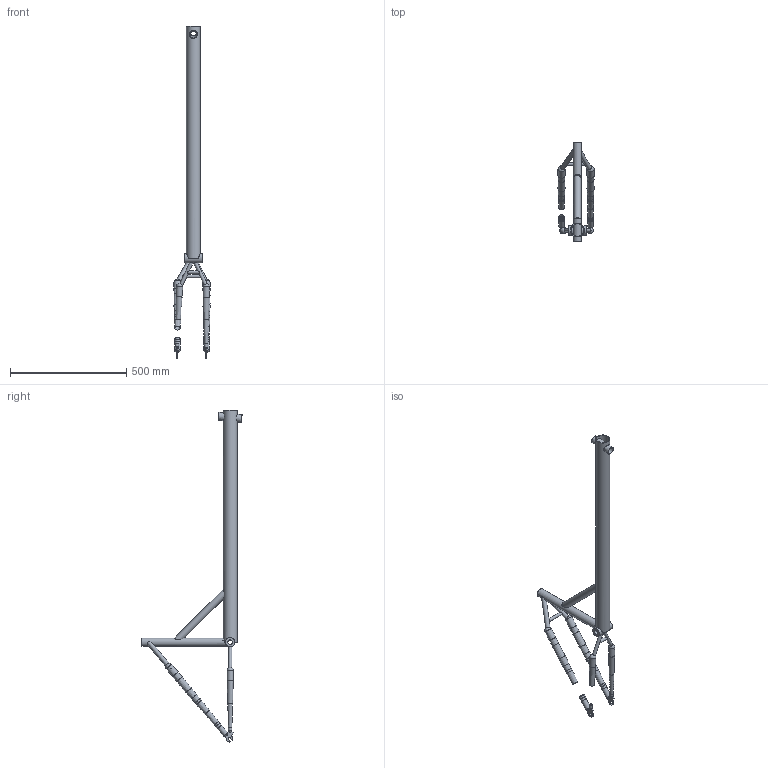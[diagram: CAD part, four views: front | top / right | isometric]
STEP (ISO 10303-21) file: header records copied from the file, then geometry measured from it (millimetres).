
FILE_DESCRIPTION(/* description */ ('Assembly1-tricycle cargo bike B'),/* implementation_level */ '2;1');
FILE_NAME(/* name */ 'C:\Users\Apardo\Documents\Proyectos\Dietrich\Proyecto 1\tricycle cargo bike B\STEP\Assembly1-tricycle cargo bike B.stp',/* time_stamp */ '2021-02-07T09:24:19-04:00',/* author */ ('Apardo'),/* organization */ ('4'),/* preprocessor_version */ 'ST-DEVELOPER v18',/* originating_system */ 'Autodesk Inventor 2020',/* authorisation */ '');
FILE_SCHEMA (('AUTOMOTIVE_DESIGN { 1 0 10303 214 3 1 1 }'));
Length unit declared in the file: millimetre
Products named in the file (5): Assembly1-tricycle cargo bike B; wl_lacb_1.3_Angle-profile-box; wl_lacb_1.1_Down-tube; wl_lacb_1.2_Head-tube; wl_lacb_1.4_Reinforcement-pipe
Assembly tree (4 placements, depth 2):
  Assembly1-tricycle cargo bike B
    wl_lacb_1.3_Angle-profile-box
    wl_lacb_1.1_Down-tube
    wl_lacb_1.2_Head-tube
    wl_lacb_1.4_Reinforcement-pipe
Bounding box: 155.62 x 431.21 x 1429.77 mm (x, y, z)
Volume: 1718604.5 mm3; surface area: 637214.9 mm2
Topology: 4 solids, 4 shells, 103 faces, 298 edges, 204 vertices
Faces by surface type: cylinder 40, plane 33, cone 22, sphere 6, bspline 2
Full cylindrical faces by diameter (mm): 12.8 x1, 13.5 x1, 14 x2, 14.6 x2, 19.4 x2, 20 x1, 23.05 x2, 24 x1, 25.4 x1, 26.7 x2, 29.7 x1, 30 x1, 30.45 x2, 33.7 x3, 36 x1, 39.9 x1, 54 x1, 60 x1
Entity records: 5549 total; most frequent: CARTESIAN_POINT 2512, ORIENTED_EDGE 592, DIRECTION 571, EDGE_CURVE 296, AXIS2_PLACEMENT_3D 232, VERTEX_POINT 204, EDGE_LOOP 126, CIRCLE 116
